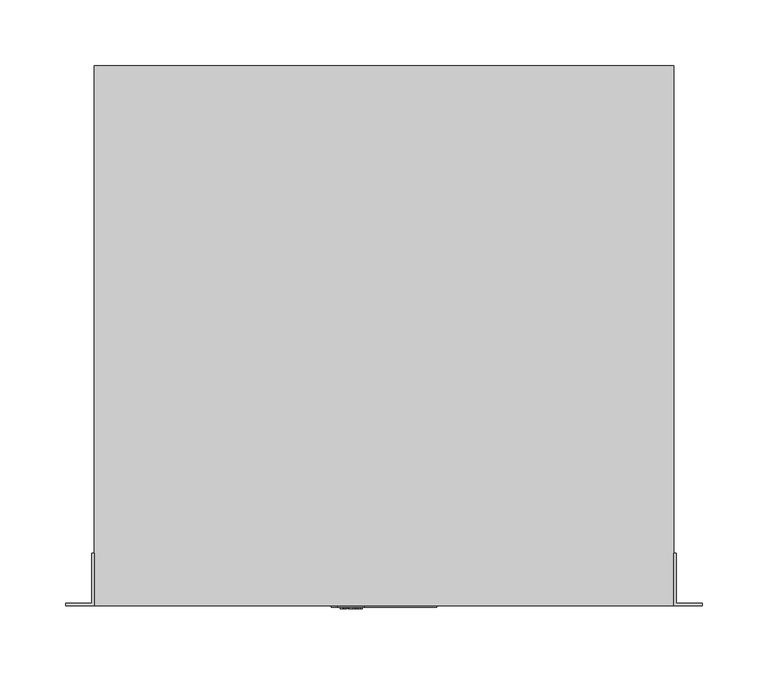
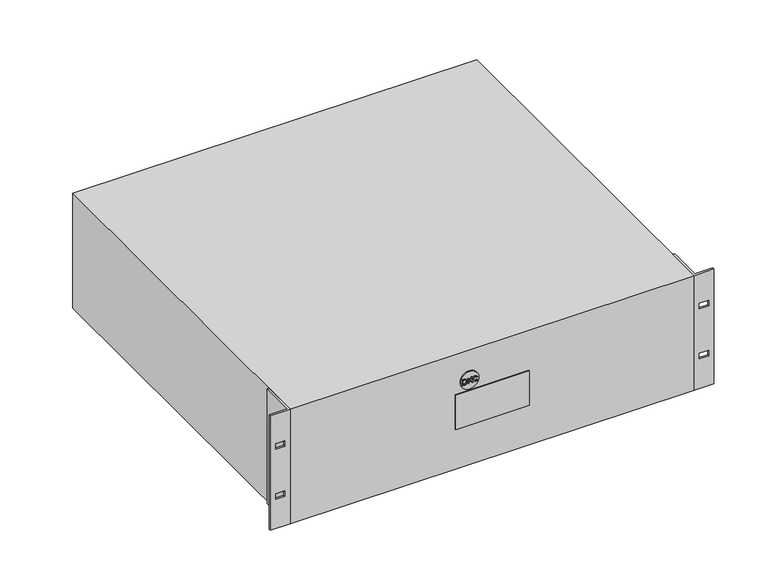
"""IFC4 building model written with IfcOpenShell, lengths in millimetres: proxy geometry, НВО_КНС_Линейно-интерактивныйИБПInfoRPro_DKC : 1500 ВА."""

from ifc_helpers import new_model, si_unit, point, frame, frame_2d, origin, origin_with_axes, place, context, project, spatial, polyline, circle_curve, trimmed, segment, composite_curve, outline, extrude, faceted_brep, source, transform, mapped, element, save


def electrical_equipment_8e992c06(model_context):
    return source(origin(), model_context, "Body", "SolidModel", [
        extrude(outline(polyline([(95.0, -33.1463789), (95.0, -30.967046), (95.103007, -29.9980448), (95.9520786, -28.7273804), (96.829845, -28.3153525), (98.0460629, -28.154956), (99.4793312, -28.391872), (100.5094008, -29.1055631), (100.9405585, -29.9914229), (101.0273786, -31.0671099), (101.0273786, -33.1463789), (95.0, -33.1463789)]), holes=[polyline([(95.7534223, -32.3929566), (100.2739563, -32.3929566), (100.2739563, -31.0803536), (100.153291, -30.0120243), (99.4852173, -29.2299072), (98.0578351, -28.9083783), (96.9181367, -29.0724537), (95.8623154, -30.0900153), (95.7534223, -31.0597522), (95.7534223, -32.3929566)])]), frame((0.0, -2.0, 0.0), z_axis=(0.0, 1.0, 0.0), x_axis=(0.0, 0.0, 1.0)), (0.0, 0.0, 1.0), 6.0),
        extrude(outline(polyline([(95.0, -26.7422891), (97.0719114, -26.365578), (98.0401768, -25.3502237), (95.0, -23.0487539), (95.0, -22.1275774), (98.5493255, -24.816059), (101.0273786, -22.2217552), (101.0273786, -23.2753692), (98.076965, -26.365578), (101.0273786, -27.1190003), (95.0, -26.7422891)])), frame((0.0, -2.0, 0.0), z_axis=(0.0, 1.0, 0.0), x_axis=(0.0, 0.0, 1.0)), (0.0, 0.0, 1.0), 6.0),
        extrude(outline(polyline([(97.1425447, -17.3245101), (96.0330126, -17.963889), (95.6592445, -19.1168311), (95.9336845, -20.1564657), (96.7628905, -20.8642706), (98.0607782, -21.0916217), (99.180611, -20.8995873), (100.0458694, -20.2337209), (100.3681341, -19.055027), (100.0775073, -18.0367296), (99.3307068, -16.6652655), (100.652139, -17.5165445), (101.1215564, -19.0255964), (100.7588248, -20.4735799), (99.6971173, -21.4881985), (98.0593067, -21.845044), (96.4479835, -21.5294013), (95.3016632, -20.6096963), (94.9058222, -19.0417832), (95.4289504, -17.4643052), (97.1425447, -17.3245101)])), frame((0.0, -2.0, 0.0), z_axis=(0.0, 1.0, 0.0), x_axis=(0.0, 0.0, 1.0)), (0.0, 0.0, 1.0), 6.0),
        extrude(outline(composite_curve([segment(trimmed(circle_curve(frame_2d((98.0, -25.0)), 10.0), [point((98.0, -35.0))], [point((98.0, -15.0))], False, "CARTESIAN"), True, "CONTINUOUS"), segment(trimmed(circle_curve(frame_2d((98.0, -25.0)), 10.0), [point((98.0, -15.0))], [point((98.0, -35.0))], False, "CARTESIAN"), True, "CONTINUOUS")], self_intersect=False)), frame((0.0, -1.0, 0.0), z_axis=(0.0, 1.0, 0.0), x_axis=(0.0, 0.0, 1.0)), (0.0, 0.0, 1.0), 10.0),
        faceted_brep([(-222.0, 2.0, 132.0), (-241.5, 2.0, 132.0), (-241.5, 0.0, 132.0), (-220.0, 0.0, 132.0), (-220.0, 40.0, 132.0), (-222.0, 40.0, 132.0), (-222.0, 2.0, 0.0), (-222.0, 40.0, 0.0), (-220.0, 40.0, 0.0), (-220.0, 0.0, 0.0), (-241.5, 0.0, 0.0), (-241.5, 2.0, 0.0), (-225.75, 2.0, 98.0), (-235.75, 2.0, 98.0), (-235.75, 2.0, 91.5), (-225.75, 2.0, 91.5), (-225.75, 2.0, 34.0), (-225.75, 2.0, 40.475), (-235.75, 2.0, 40.475), (-235.75, 2.0, 34.0), (-235.75, 0.0, 98.0), (-225.75, 0.0, 98.0), (-225.75, 0.0, 91.5), (-235.75, 0.0, 91.5), (-225.75, 0.0, 40.475), (-225.75, 0.0, 34.0), (-235.75, 0.0, 34.0), (-235.75, 0.0, 40.475)], [[[0, 1, 2, 3, 4, 5]], [[6, 7, 8, 9, 10, 11]], [[1, 0, 6, 11], [12, 13, 14, 15], [16, 17, 18, 19]], [[2, 1, 11, 10]], [[3, 2, 10, 9], [20, 21, 22, 23], [24, 25, 26, 27]], [[4, 3, 9, 8]], [[5, 4, 8, 7]], [[0, 5, 7, 6]], [[20, 13, 12, 21]], [[13, 20, 23, 14]], [[14, 23, 22, 15]], [[21, 12, 15, 22]], [[24, 17, 16, 25]], [[17, 24, 27, 18]], [[18, 27, 26, 19]], [[25, 16, 19, 26]]]),
        faceted_brep([(220.0, 0.0, 132.0), (241.5, 0.0, 132.0), (241.5, 2.0, 132.0), (222.0, 2.0, 132.0), (222.0, 40.0, 132.0), (220.0, 40.0, 132.0), (220.0, 0.0, 0.0), (220.0, 40.0, 0.0), (222.0, 40.0, 0.0), (222.0, 2.0, 0.0), (241.5, 2.0, 0.0), (241.5, 0.0, 0.0), (225.75, 0.0, 91.5), (225.75, 0.0, 98.0), (235.75, 0.0, 98.0), (235.75, 0.0, 91.5), (235.75, 0.0, 34.0), (225.75, 0.0, 34.0), (225.75, 0.0, 40.475), (235.75, 0.0, 40.475), (225.75, 2.0, 98.0), (225.75, 2.0, 91.5), (235.75, 2.0, 91.5), (235.75, 2.0, 98.0), (225.75, 2.0, 34.0), (235.75, 2.0, 34.0), (235.75, 2.0, 40.475), (225.75, 2.0, 40.475)], [[[0, 1, 2, 3, 4, 5]], [[6, 7, 8, 9, 10, 11]], [[1, 0, 6, 11], [12, 13, 14, 15], [16, 17, 18, 19]], [[2, 1, 11, 10]], [[3, 2, 10, 9], [20, 21, 22, 23], [24, 25, 26, 27]], [[4, 3, 9, 8]], [[5, 4, 8, 7]], [[0, 5, 7, 6]], [[12, 21, 20, 13]], [[21, 12, 15, 22]], [[22, 15, 14, 23]], [[13, 20, 23, 14]], [[16, 25, 24, 17]], [[25, 16, 19, 26]], [[26, 19, 18, 27]], [[17, 24, 27, 18]]]),
        extrude(outline(polyline([(40.0, -1.0), (-40.0, -1.0), (-40.0, 0.0), (40.0, 0.0), (40.0, -1.0)])), frame((0.0, 0.0, 46.0), z_axis=(0.0, 0.0, 1.0), x_axis=(1.0, 0.0, 0.0)), (0.0, 0.0, 1.0), 40.0),
        extrude(outline(polyline([(220.0, 0.0), (-220.0, 0.0), (-220.0, 410.0), (220.0, 410.0), (220.0, 0.0)])), origin_with_axes(), (0.0, 0.0, 1.0), 132.0),
    ])


if __name__ == "__main__":
    model = new_model("IFC4")
    model_context = context("Model", 3, world=origin())
    ifc_project = project(units=[si_unit("LENGTHUNIT", "METRE", prefix="MILLI")], contexts=[model_context])
    site = spatial("IfcSite", under=ifc_project)
    building = spatial("IfcBuilding", under=site)
    placement = place(None, origin())
    electrical_equipment_shape = electrical_equipment_8e992c06(model_context)
    element("IfcBuildingElementProxy", 1, Name="НВО_КНС_Линейно-интерактивныйИБПInfoRPro_DKC : 1500 ВА", ObjectType="НВО_КНС_Линейно-интерактивныйИБПInfoRPro_DKC : 1500 ВА", at=placement, inside=building, context=model_context, shape_type="MappedRepresentation", body=[
        mapped(electrical_equipment_shape, transform((0.0, 0.0, 0.0), x_axis=(1.0, 0.0, 0.0), y_axis=(0.0, 1.0, 0.0), z_axis=(0.0, 0.0, 1.0))),
    ])
    save(model, "model.ifc")
